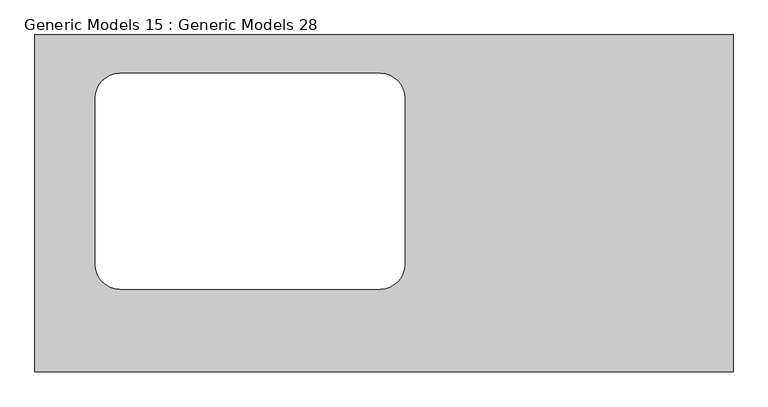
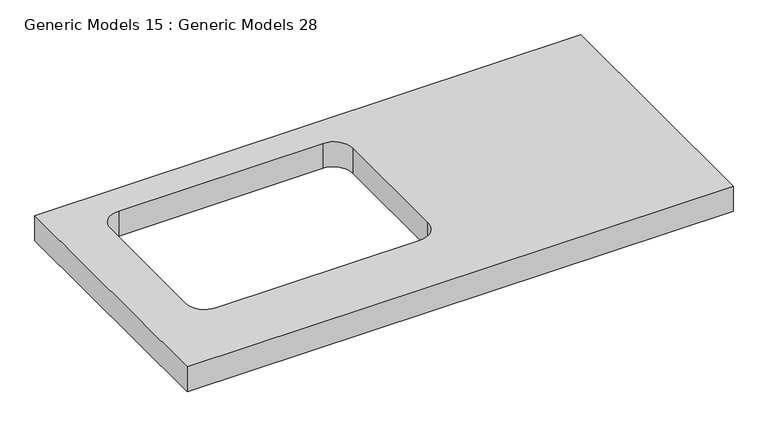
"""IFC4 building model written with IfcOpenShell, lengths in millimetres: proxy geometry, Generic Models 15 : Generic Models 28."""

from ifc_helpers import new_model, si_unit, point, frame, frame_2d, origin, place, context, project, spatial, polyline, circle_curve, trimmed, segment, composite_curve, outline, extrude, source, transform, mapped, element, save


def generic_models_15_generic_models_28_390f8a59(model_context):
    return source(origin(), model_context, "Body", "SweptSolid", [
        extrude(outline(polyline([(-12677.2739616, -19964.5871375), (-11227.2739616, -19964.5871375), (-11227.2739616, -20664.5871375), (-12677.2739616, -20664.5871375), (-12677.2739616, -19964.5871375)]), holes=[composite_curve([segment(polyline([(-11908.9733744, -20441.5324412), (-11908.9733744, -20095.5324412)]), True, "CONTINUOUS"), segment(trimmed(circle_curve(frame_2d((-11959.7733744, -20095.5324412)), 50.8), [point((-11908.9733744, -20095.5324412))], [point((-11959.7733744, -20044.7324412))], True, "CARTESIAN"), True, "CONTINUOUS"), segment(polyline([(-11959.7733744, -20044.7324412), (-12501.2733744, -20044.7324412)]), True, "CONTINUOUS"), segment(trimmed(circle_curve(frame_2d((-12501.2733744, -20095.5324412)), 50.8), [point((-12501.2733744, -20044.7324412))], [point((-12552.0733744, -20095.5324412))], True, "CARTESIAN"), True, "CONTINUOUS"), segment(polyline([(-12552.0733744, -20095.5324412), (-12552.0733744, -20441.5324412)]), True, "CONTINUOUS"), segment(trimmed(circle_curve(frame_2d((-12501.2733744, -20441.5324412)), 50.8), [point((-12552.0733744, -20441.5324412))], [point((-12501.2733744, -20492.3324412))], True, "CARTESIAN"), True, "CONTINUOUS"), segment(polyline([(-12501.2733744, -20492.3324412), (-11959.7733744, -20492.3324412)]), True, "CONTINUOUS"), segment(trimmed(circle_curve(frame_2d((-11959.7733744, -20441.5324412)), 50.8), [point((-11959.7733744, -20492.3324412))], [point((-11908.9733744, -20441.5324412))], True, "CARTESIAN"), True, "CONTINUOUS")], self_intersect=False)]), frame((0.0, 0.0, 830.0), z_axis=(0.0, 0.0, 1.0), x_axis=(1.0, 0.0, 0.0)), (0.0, 0.0, 1.0), 70.0),
    ])


if __name__ == "__main__":
    model = new_model("IFC4")
    model_context = context("Model", 3, world=origin())
    ifc_project = project(units=[si_unit("LENGTHUNIT", "METRE", prefix="MILLI")], contexts=[model_context])
    site = spatial("IfcSite", under=ifc_project)
    building = spatial("IfcBuilding", under=site)
    placement = place(None, origin())
    generic_models_15_generic_models_28_shape = generic_models_15_generic_models_28_390f8a59(model_context)
    element("IfcBuildingElementProxy", 1, Name="Generic Models 15 : Generic Models 28", ObjectType="Generic Models 15 : Generic Models 28", at=placement, inside=building, context=model_context, shape_type="MappedRepresentation", body=[
        mapped(generic_models_15_generic_models_28_shape, transform((0.0, 0.0, 0.0), x_axis=(1.0, 0.0, 0.0), y_axis=(0.0, 1.0, 0.0), z_axis=(0.0, 0.0, 1.0))),
    ])
    save(model, "model.ifc")
